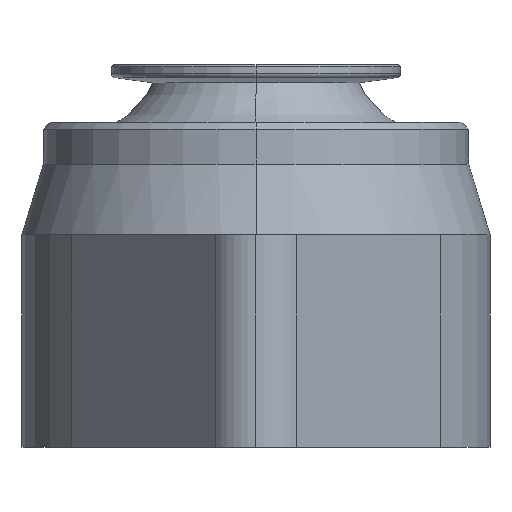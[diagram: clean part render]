
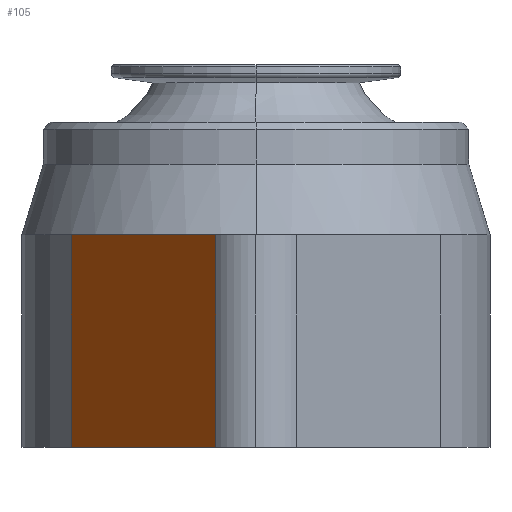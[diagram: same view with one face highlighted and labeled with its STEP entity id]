
A CAD part, left-side view. The second image highlights one B-rep face of the part: STEP entity #105.
In plain terms, the highlighted planar face has unit normal (-0.614, 0.789, 0).
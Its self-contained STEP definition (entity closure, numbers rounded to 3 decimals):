
#105=ADVANCED_FACE('',(#240),#241,.T.);
#240=FACE_OUTER_BOUND('',#441,.T.);
#241=PLANE('',#442);
#441=EDGE_LOOP('',(#978,#979,#980,#981));
#442=AXIS2_PLACEMENT_3D('',#982,#983,#984);
#978=ORIENTED_EDGE('',*,*,#1329,.T.);
#979=ORIENTED_EDGE('',*,*,#1339,.T.);
#980=ORIENTED_EDGE('',*,*,#1341,.F.);
#981=ORIENTED_EDGE('',*,*,#1239,.T.);
#982=CARTESIAN_POINT('',(-27.789,13.217,0.));
#983=DIRECTION('',(-0.614,0.789,0.0));
#984=DIRECTION('',(-0.789,-0.614,0.0));
#1239=EDGE_CURVE('',#1815,#1813,#1816,.T.);
#1329=EDGE_CURVE('',#1813,#1840,#1958,.T.);
#1339=EDGE_CURVE('',#1840,#1972,#1973,.T.);
#1341=EDGE_CURVE('',#1815,#1972,#1975,.T.);
#1813=VERTEX_POINT('',#2188);
#1815=VERTEX_POINT('',#2190);
#1816=LINE('',#2191,#2192);
#1840=VERTEX_POINT('',#2222);
#1958=LINE('',#2364,#2365);
#1972=VERTEX_POINT('',#2385);
#1973=LINE('',#2386,#2387);
#1975=LINE('',#2389,#2390);
#2188=CARTESIAN_POINT('',(-38.686,4.735,25.0));
#2190=CARTESIAN_POINT('',(-38.686,4.735,0.));
#2191=CARTESIAN_POINT('',(-38.686,4.735,0.));
#2192=VECTOR('',#2662,1.0);
#2222=CARTESIAN_POINT('',(-16.893,21.7,25.0));
#2364=CARTESIAN_POINT('',(-38.686,4.735,25.0));
#2365=VECTOR('',#2870,1.);
#2385=CARTESIAN_POINT('',(-16.893,21.7,0.));
#2386=CARTESIAN_POINT('',(-16.893,21.7,12.5));
#2387=VECTOR('',#2886,1.0);
#2389=CARTESIAN_POINT('',(-38.686,4.735,0.));
#2390=VECTOR('',#2890,1.);
#2662=DIRECTION('',(0.0,0.0,1.0));
#2870=DIRECTION('',(0.789,0.614,0.0));
#2886=DIRECTION('',(0.0,0.0,-1.0));
#2890=DIRECTION('',(0.789,0.614,0.0));
